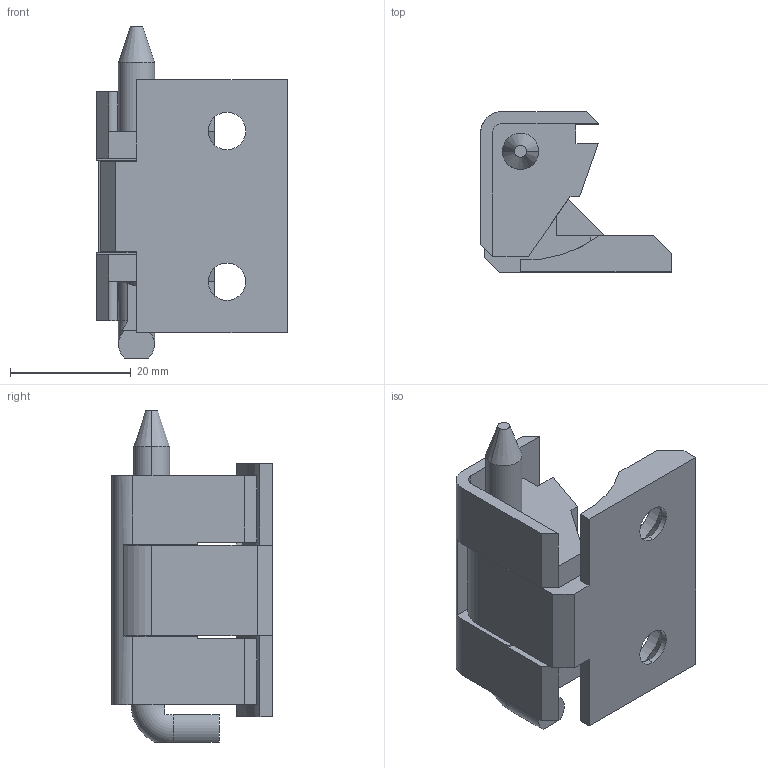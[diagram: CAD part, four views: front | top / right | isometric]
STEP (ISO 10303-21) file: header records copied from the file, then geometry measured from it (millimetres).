
FILE_DESCRIPTION (( 'STEP AP203' ), '1' );
FILE_NAME ('CL212.STEP', '2019-12-28T06:41:08', ( '' ), ( '' ), 'SwSTEP 2.0', 'SolidWorks 2018', '' );
FILE_SCHEMA (( 'CONFIG_CONTROL_DESIGN' ));
Length unit declared in the file: millimetre
Products named in the file (4): CL212; CL212雄蝓蟈_3; CL211蛌粣; CL212隅蝓蟈
Assembly tree (3 placements, depth 2):
  CL212
    CL212隅蝓蟈
    CL212雄蝓蟈_3
    CL211蛌粣
Bounding box: 31.6 x 26.6 x 55.05 mm (x, y, z)
Volume: 14499 mm3; surface area: 9745.2 mm2
Topology: 3 solids, 3 shells, 93 faces, 249 edges, 160 vertices
Faces by surface type: plane 51, cylinder 29, cone 12, torus 1
Entity records: 3443 total; most frequent: CARTESIAN_POINT 673, ORIENTED_EDGE 498, DIRECTION 491, EDGE_CURVE 249, VECTOR 167, LINE 167, AXIS2_PLACEMENT_3D 162, VERTEX_POINT 160
